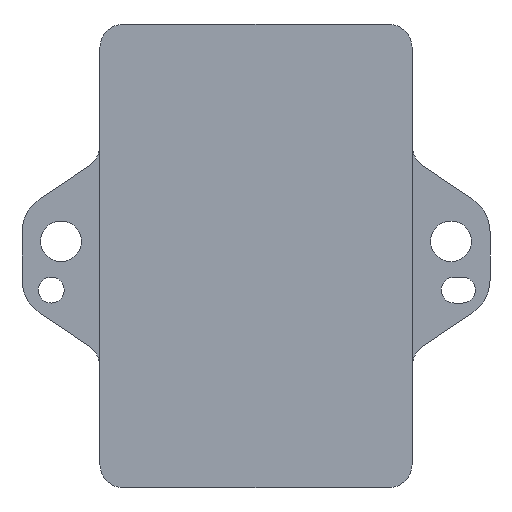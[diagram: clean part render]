
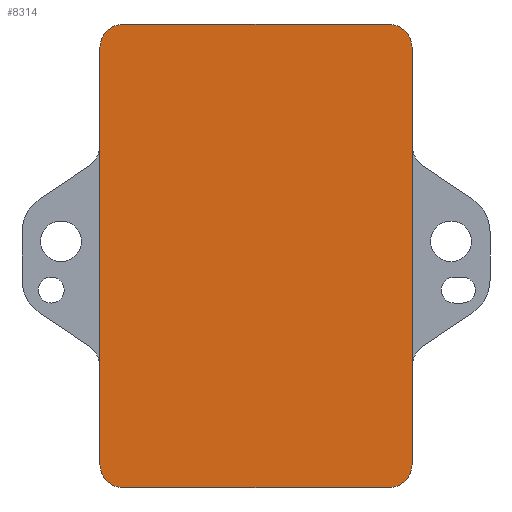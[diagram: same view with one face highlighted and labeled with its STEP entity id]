
A CAD part, front view. The second image highlights one B-rep face of the part: STEP entity #8314.
In plain terms, the highlighted planar face has unit normal (0, -1, 0).
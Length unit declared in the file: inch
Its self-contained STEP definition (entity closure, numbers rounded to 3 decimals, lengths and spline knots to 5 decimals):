
#252=PLANE('',#9133);
#717=FACE_OUTER_BOUND('',#1204,.T.);
#1204=EDGE_LOOP('',(#7174,#7175,#7176,#7177,#7178,#7179,#7180,#7181));
#1547=CIRCLE('',#9067,0.07);
#1560=CIRCLE('',#9082,0.07);
#1561=CIRCLE('',#9084,0.07);
#1562=CIRCLE('',#9087,0.07);
#2283=LINE('',#27706,#2747);
#2292=LINE('',#27737,#2756);
#2305=LINE('',#27780,#2769);
#2341=LINE('',#27911,#2805);
#2747=VECTOR('',#10853,0.3937);
#2756=VECTOR('',#10878,0.3937);
#2769=VECTOR('',#10915,0.3937);
#2805=VECTOR('',#11069,0.3937);
#3524=VERTEX_POINT('',#27702);
#3526=VERTEX_POINT('',#27705);
#3539=VERTEX_POINT('',#27734);
#3540=VERTEX_POINT('',#27736);
#3557=VERTEX_POINT('',#27777);
#3558=VERTEX_POINT('',#27779);
#3593=VERTEX_POINT('',#27905);
#3594=VERTEX_POINT('',#27909);
#4658=EDGE_CURVE('',#3526,#3524,#2283,.T.);
#4673=EDGE_CURVE('',#3540,#3539,#2292,.T.);
#4694=EDGE_CURVE('',#3558,#3557,#2305,.T.);
#4736=EDGE_CURVE('',#3540,#3524,#1547,.T.);
#4756=EDGE_CURVE('',#3526,#3557,#1560,.T.);
#4758=EDGE_CURVE('',#3593,#3539,#1561,.T.);
#4760=EDGE_CURVE('',#3593,#3594,#2341,.T.);
#4761=EDGE_CURVE('',#3558,#3594,#1562,.T.);
#7174=ORIENTED_EDGE('',*,*,#4736,.F.);
#7175=ORIENTED_EDGE('',*,*,#4673,.T.);
#7176=ORIENTED_EDGE('',*,*,#4758,.F.);
#7177=ORIENTED_EDGE('',*,*,#4760,.T.);
#7178=ORIENTED_EDGE('',*,*,#4761,.F.);
#7179=ORIENTED_EDGE('',*,*,#4694,.T.);
#7180=ORIENTED_EDGE('',*,*,#4756,.F.);
#7181=ORIENTED_EDGE('',*,*,#4658,.T.);
#8314=ADVANCED_FACE('',(#717),#252,.T.);
#9067=AXIS2_PLACEMENT_3D('',#27866,#11022,#11023);
#9082=AXIS2_PLACEMENT_3D('',#27903,#11059,#11060);
#9084=AXIS2_PLACEMENT_3D('',#27907,#11064,#11065);
#9087=AXIS2_PLACEMENT_3D('',#27913,#11072,#11073);
#9133=AXIS2_PLACEMENT_3D('',#28011,#11196,#11197);
#10853=DIRECTION('',(-1.,0.,0.));
#10878=DIRECTION('',(0.,0.,-1.));
#10915=DIRECTION('',(0.,0.,1.));
#11022=DIRECTION('center_axis',(0.,1.,0.));
#11023=DIRECTION('ref_axis',(-0.707,0.,0.707));
#11059=DIRECTION('center_axis',(0.,1.,0.));
#11060=DIRECTION('ref_axis',(0.707,0.,0.707));
#11064=DIRECTION('center_axis',(0.,1.,0.));
#11065=DIRECTION('ref_axis',(-0.707,0.,-0.707));
#11069=DIRECTION('',(1.,0.,0.));
#11072=DIRECTION('center_axis',(0.,1.,0.));
#11073=DIRECTION('ref_axis',(0.707,0.,-0.707));
#11196=DIRECTION('center_axis',(0.,-1.,0.));
#11197=DIRECTION('ref_axis',(0.,0.,-1.));
#27702=CARTESIAN_POINT('',(-0.44102,-0.07115,0.7125));
#27705=CARTESIAN_POINT('',(0.37898,-0.07115,0.7125));
#27706=CARTESIAN_POINT('',(0.44898,-0.07115,0.7125));
#27734=CARTESIAN_POINT('',(-0.51102,-0.07115,-0.6425));
#27736=CARTESIAN_POINT('',(-0.51102,-0.07115,0.6425));
#27737=CARTESIAN_POINT('',(-0.51102,-0.07115,0.7125));
#27777=CARTESIAN_POINT('',(0.44898,-0.07115,0.6425));
#27779=CARTESIAN_POINT('',(0.44898,-0.07115,-0.6425));
#27780=CARTESIAN_POINT('',(0.44898,-0.07115,-0.7125));
#27866=CARTESIAN_POINT('Origin',(-0.44102,-0.07115,
0.6425));
#27903=CARTESIAN_POINT('Origin',(0.37898,-0.07115,
0.6425));
#27905=CARTESIAN_POINT('',(-0.44102,-0.07115,-0.7125));
#27907=CARTESIAN_POINT('Origin',(-0.44102,-0.07115,
-0.6425));
#27909=CARTESIAN_POINT('',(0.37898,-0.07115,-0.7125));
#27911=CARTESIAN_POINT('',(-0.51102,-0.07115,-0.7125));
#27913=CARTESIAN_POINT('Origin',(0.37898,-0.07115,
-0.6425));
#28011=CARTESIAN_POINT('Origin',(-0.03102,-0.07115,
0.));
